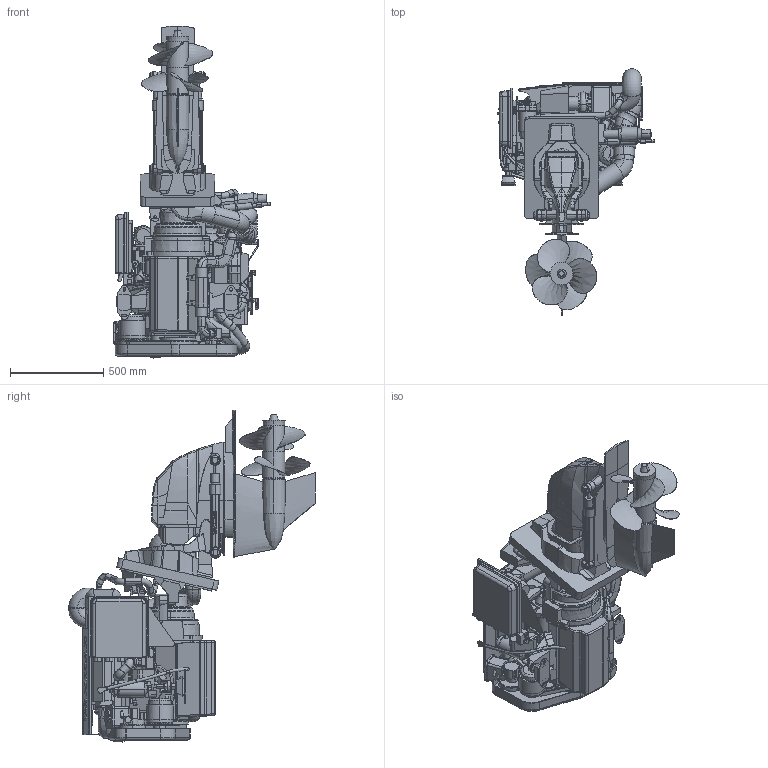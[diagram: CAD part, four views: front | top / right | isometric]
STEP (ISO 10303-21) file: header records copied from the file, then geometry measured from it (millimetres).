
FILE_DESCRIPTION(('CoCreate Modeling STEP Export'),'2;1');
FILE_NAME('4BY3-180Z_ZT370.stp','2013-06-06T 9:32:29',(''),(''),'CoCreate Modeling STEP processor for AP214 (Solid Model)','CoCreate Modeling 16.50A 01-Dec-2009 (C) Parametric Technology GmbH','');
FILE_SCHEMA(('AUTOMOTIVE_DESIGN { 1 0 10303 214 1 1 1 1 }'));
Length unit declared in the file: millimetre
Products named in the file (65): ZT370_BY_001; ZT370_BY_010; ZT370_BY_011; ZT370_BY_009; ZT370_BY_013; ZT370_BY_012; ZT370_BY_008; ZT370_BY_005; ZT370_BY_006; ZT370_BY_007; ZT370_BY_002; ZT370_BY_003; ZT370_BY_004; Boat; ZT370_Sterndrive-BY; 4BY3_047; 4BY3_005; 4BY3_001; 4BY3_002; 4BY3_003; 4BY3_008; 4BY3_009; 4BY3_006; 4BY3_007; 4BY3_011; 4BY3_012; 4BY3_013; 4BY3_010; 4BY3_014; 4BY3_015; 4BY3_016; 4BY3_017; 4BY3_018; 4BY3_019; 4BY3_020; 4BY3_021; 4BY3_022; 4BY3_026; 4BY3_024; 4BY3_027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
Assembly tree (64 placements, depth 4):
  4BY3-180Z_ZT370
    4BY3-180Z_Engine_Sterndrive
      Base
        4BY3_043
        4BY3_044
        4BY3_046
        4BY3_045
        4BY3_041
        4BY3_004
        4BY3_042
        4BY3_040
        4BY3_039
        4BY3_038
        4BY3_037
        4BY3_036
        4BY3_035
        4BY3_034
        4BY3_033
        4BY3_031
        4BY3_032
        4BY3_030
        4BY3_029
        4BY3_028
        4BY3_025
        4BY3_023
        4BY3_027
        4BY3_024
        4BY3_026
        4BY3_022
        4BY3_021
        4BY3_020
        4BY3_019
        4BY3_018
        4BY3_017
        4BY3_016
        4BY3_015
        4BY3_014
        4BY3_010
        4BY3_013
        4BY3_012
        4BY3_011
        4BY3_007
        4BY3_006
        4BY3_009
        4BY3_008
        4BY3_003
        4BY3_002
        4BY3_001
        4BY3_005
        4BY3_047
    ZT370_Sterndrive-BY
      Boat
      ZT370_BY_004
      ZT370_BY_003
      ZT370_BY_002
      ZT370_BY_007
      ZT370_BY_006
      ZT370_BY_005
      ZT370_BY_008
      ZT370_BY_012
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Bounding box: 844.12 x 1320.57 x 1778.43 mm (x, y, z)
Volume: 219107891 mm3; surface area: 12779704.1 mm2
Topology: 61 solids, 61 shells, 5008 faces, 13503 edges, 8758 vertices
Faces by surface type: plane 2208, cylinder 1685, bspline 519, torus 346, cone 144, extrusion 53, sphere 50, revolution 3
Entity records: 243400 total; most frequent: CARTESIAN_POINT 127072, ORIENTED_EDGE 26960, DIRECTION 20188, EDGE_CURVE 13480, VERTEX_POINT 8758, VECTOR 7168, LINE 7117, AXIS2_PLACEMENT_3D 6509
